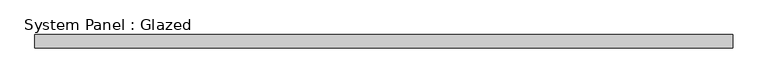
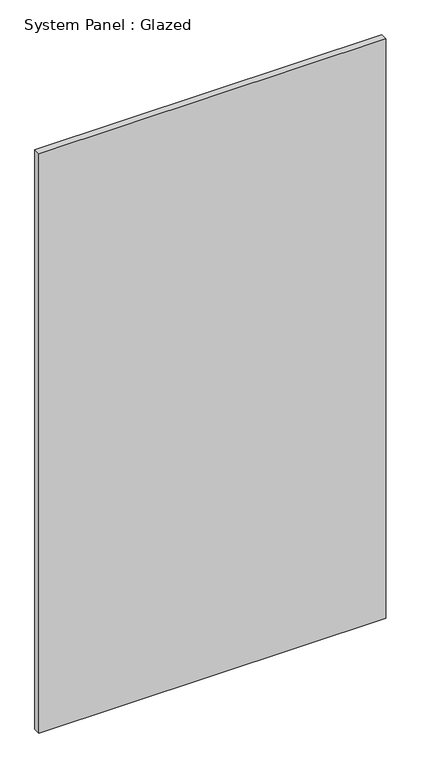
"""IFC4 building model written with IfcOpenShell, lengths in millimetres: plate geometry, System Panel : Glazed."""

from ifc_helpers import new_model, si_unit, origin, origin_with_axes, place, context, project, spatial, polyline, outline, extrude, source, transform, mapped, element, save


def system_panel_glazed_5121d44b(model_context):
    return source(origin(), model_context, "Body", "SweptSolid", [
        extrude(outline(polyline([(663.7045455, 19.05), (-663.7045455, 19.05), (-663.7045455, 44.45), (663.7045455, 44.45), (663.7045455, 19.05)])), origin_with_axes(), (0.0, 0.0, 1.0), 2343.15),
    ])


if __name__ == "__main__":
    model = new_model("IFC4")
    model_context = context("Model", 3, world=origin())
    ifc_project = project(units=[si_unit("LENGTHUNIT", "METRE", prefix="MILLI")], contexts=[model_context])
    site = spatial("IfcSite", under=ifc_project)
    building = spatial("IfcBuilding", under=site)
    placement = place(None, origin())
    system_panel_glazed_shape = system_panel_glazed_5121d44b(model_context)
    element("IfcPlate", 1, ObjectType="System Panel : Glazed", at=placement, inside=building, context=model_context, shape_type="MappedRepresentation", body=[
        mapped(system_panel_glazed_shape, transform((0.0, 0.0, 0.0), x_axis=(1.0, 0.0, 0.0), y_axis=(0.0, 1.0, 0.0), z_axis=(0.0, 0.0, 1.0))),
    ])
    save(model, "model.ifc")
